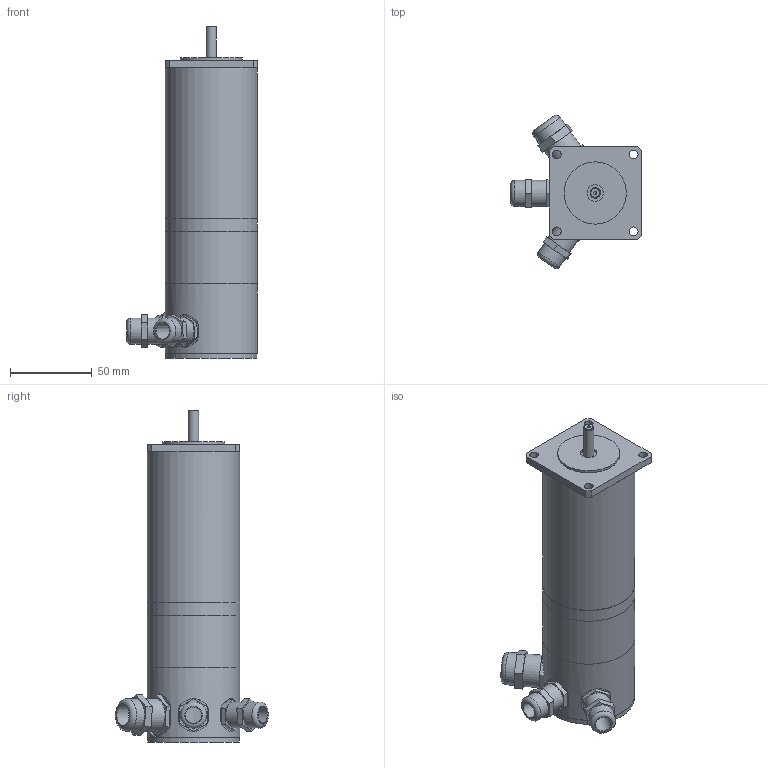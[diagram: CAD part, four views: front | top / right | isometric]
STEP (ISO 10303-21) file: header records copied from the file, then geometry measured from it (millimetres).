
FILE_DESCRIPTION((''),'2;1');
FILE_NAME('C:\Users\Reinhard\Documents\Inventor\Testschrittmotor\SM56\step files\SM 56.3-BE50-KV.stp','2020-02-24T20:33:31',('Reinhard'),(''),'Autodesk Inventor 2012','Autodesk Inventor 2012','');
FILE_SCHEMA(('CONFIG_CONTROL_DESIGN'));
Length unit declared in the file: millimetre
Products named in the file (1): SM 56.3-BE50-KV_Konturvereinfachung_1
Bounding box: 80 x 93.72 x 203.2 mm (x, y, z)
Volume: 112861.2 mm3; surface area: 84543.2 mm2
Topology: 2 solids, 3 shells, 134 faces, 295 edges, 195 vertices
Faces by surface type: plane 86, cylinder 42, torus 4, cone 2
Full cylindrical faces by diameter (mm): 2 x1, 5.4 x4, 6.35 x2, 10 x3, 12 x3, 13 x2, 15 x3, 16 x4, 18.376 x1, 20 x3, 38.1 x1, 48 x1, 51.5 x1, 53.5 x1, 54.5 x1, 56 x1, 56.5 x4
Entity records: 3648 total; most frequent: CARTESIAN_POINT 758, DIRECTION 584, ORIENTED_EDGE 490, EDGE_CURVE 245, EDGE_LOOP 222, AXIS2_PLACEMENT_3D 219, VERTEX_POINT 187, VECTOR 146
